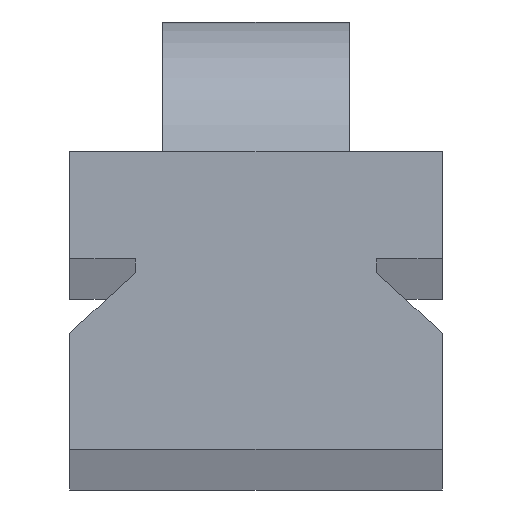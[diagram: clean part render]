
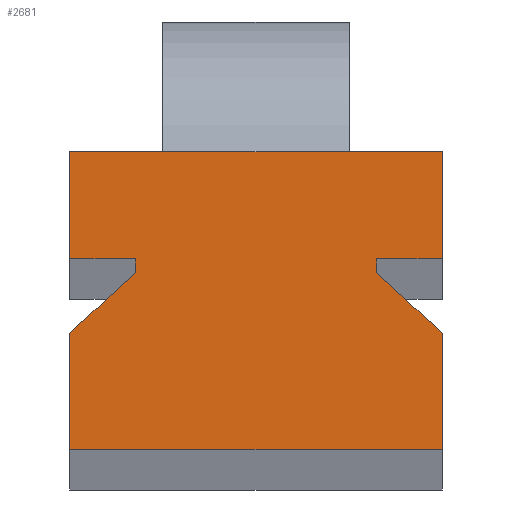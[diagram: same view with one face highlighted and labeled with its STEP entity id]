
A CAD part, top view. The second image highlights one B-rep face of the part: STEP entity #2681.
In plain terms, the highlighted planar face has unit normal (0, 0, 1).
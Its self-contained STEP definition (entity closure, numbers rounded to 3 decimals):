
#43 = CARTESIAN_POINT ( 'NONE',  ( 20., 0., 50. ) ) ;
#131 = VERTEX_POINT ( 'NONE', #3846 ) ;
#171 = EDGE_LOOP ( 'NONE', ( #5297, #5217, #3249, #1581, #4261, #365, #4163, #2507, #2164, #943, #1384, #4360 ) ) ;
#193 = CARTESIAN_POINT ( 'NONE',  ( 20., 20.5, 50. ) ) ;
#204 = DIRECTION ( 'NONE',  ( 0., -1., 0. ) ) ;
#254 = VERTEX_POINT ( 'NONE', #3210 ) ;
#300 = DIRECTION ( 'NONE',  ( -0.733, -0.68, 0. ) ) ;
#365 = ORIENTED_EDGE ( 'NONE', *, *, #3526, .T. ) ;
#384 = EDGE_CURVE ( 'NONE', #4101, #1215, #4078, .T. ) ;
#393 = FACE_OUTER_BOUND ( 'NONE', #171, .T. ) ;
#401 = DIRECTION ( 'NONE',  ( -1., 0., 0. ) ) ;
#515 = VERTEX_POINT ( 'NONE', #193 ) ;
#577 = DIRECTION ( 'NONE',  ( 1., 0., 0. ) ) ;
#612 = CARTESIAN_POINT ( 'NONE',  ( -20., 0., 50. ) ) ;
#635 = DIRECTION ( 'NONE',  ( -0.733, 0.68, 0. ) ) ;
#640 = DIRECTION ( 'NONE',  ( 0., 1., 0. ) ) ;
#793 = CARTESIAN_POINT ( 'NONE',  ( 0., 0., 50. ) ) ;
#824 = VERTEX_POINT ( 'NONE', #1285 ) ;
#943 = ORIENTED_EDGE ( 'NONE', *, *, #3643, .T. ) ;
#1093 = LINE ( 'NONE', #4709, #4825 ) ;
#1166 = VERTEX_POINT ( 'NONE', #1202 ) ;
#1202 = CARTESIAN_POINT ( 'NONE',  ( -20., 12.5, 50. ) ) ;
#1215 = VERTEX_POINT ( 'NONE', #43 ) ;
#1269 = DIRECTION ( 'NONE',  ( 1., 0., 0. ) ) ;
#1285 = CARTESIAN_POINT ( 'NONE',  ( -13., 20.5, 50. ) ) ;
#1315 = LINE ( 'NONE', #3340, #3208 ) ;
#1358 = EDGE_CURVE ( 'NONE', #254, #4519, #5139, .T. ) ;
#1384 = ORIENTED_EDGE ( 'NONE', *, *, #2483, .T. ) ;
#1513 = DIRECTION ( 'NONE',  ( 1., 0., 0. ) ) ;
#1522 = LINE ( 'NONE', #612, #1684 ) ;
#1549 = CARTESIAN_POINT ( 'NONE',  ( 20., 32., 50. ) ) ;
#1570 = DIRECTION ( 'NONE',  ( -1., 0., 0. ) ) ;
#1581 = ORIENTED_EDGE ( 'NONE', *, *, #4746, .T. ) ;
#1684 = VECTOR ( 'NONE', #4770, 1000. ) ;
#1778 = LINE ( 'NONE', #4302, #1933 ) ;
#1860 = VECTOR ( 'NONE', #300, 1000. ) ;
#1933 = VECTOR ( 'NONE', #577, 1000. ) ;
#1959 = CARTESIAN_POINT ( 'NONE',  ( -20., 12.5, 50. ) ) ;
#1975 = PLANE ( 'NONE',  #4265 ) ;
#2081 = EDGE_CURVE ( 'NONE', #4142, #1166, #3530, .T. ) ;
#2157 = CARTESIAN_POINT ( 'NONE',  ( -20., 32., 50. ) ) ;
#2164 = ORIENTED_EDGE ( 'NONE', *, *, #4710, .T. ) ;
#2328 = EDGE_CURVE ( 'NONE', #4428, #3449, #4067, .T. ) ;
#2353 = LINE ( 'NONE', #5184, #4900 ) ;
#2475 = CARTESIAN_POINT ( 'NONE',  ( -13., 19., 50. ) ) ;
#2483 = EDGE_CURVE ( 'NONE', #824, #4142, #5169, .T. ) ;
#2507 = ORIENTED_EDGE ( 'NONE', *, *, #2328, .T. ) ;
#2540 = VECTOR ( 'NONE', #640, 1000. ) ;
#2553 = VECTOR ( 'NONE', #401, 1000. ) ;
#2582 = EDGE_CURVE ( 'NONE', #1166, #4101, #1522, .T. ) ;
#2681 = ADVANCED_FACE ( 'NONE', ( #393 ), #1975, .F. ) ;
#2909 = DIRECTION ( 'NONE',  ( 0., 1., 0. ) ) ;
#2952 = VECTOR ( 'NONE', #204, 1000. ) ;
#3153 = CARTESIAN_POINT ( 'NONE',  ( 13., 20.5, 50. ) ) ;
#3208 = VECTOR ( 'NONE', #2909, 1000. ) ;
#3210 = CARTESIAN_POINT ( 'NONE',  ( 13., 19., 50. ) ) ;
#3249 = ORIENTED_EDGE ( 'NONE', *, *, #4902, .T. ) ;
#3316 = CARTESIAN_POINT ( 'NONE',  ( 20., 0., 50. ) ) ;
#3331 = LINE ( 'NONE', #5002, #4911 ) ;
#3340 = CARTESIAN_POINT ( 'NONE',  ( 20., 32., 50. ) ) ;
#3449 = VERTEX_POINT ( 'NONE', #2157 ) ;
#3526 = EDGE_CURVE ( 'NONE', #4519, #515, #1778, .T. ) ;
#3530 = LINE ( 'NONE', #1959, #1860 ) ;
#3610 = VECTOR ( 'NONE', #1269, 1000. ) ;
#3623 = DIRECTION ( 'NONE',  ( 0., 0., -1. ) ) ;
#3643 = EDGE_CURVE ( 'NONE', #131, #824, #2353, .T. ) ;
#3660 = CARTESIAN_POINT ( 'NONE',  ( -20., 0., 50. ) ) ;
#3846 = CARTESIAN_POINT ( 'NONE',  ( -20., 20.5, 50. ) ) ;
#3878 = CARTESIAN_POINT ( 'NONE',  ( -20., 32., 50. ) ) ;
#4067 = LINE ( 'NONE', #1549, #2553 ) ;
#4075 = VERTEX_POINT ( 'NONE', #4406 ) ;
#4078 = LINE ( 'NONE', #3316, #3610 ) ;
#4101 = VERTEX_POINT ( 'NONE', #3660 ) ;
#4136 = EDGE_CURVE ( 'NONE', #515, #4428, #1315, .T. ) ;
#4142 = VERTEX_POINT ( 'NONE', #2475 ) ;
#4146 = DIRECTION ( 'NONE',  ( 0., 1., 0. ) ) ;
#4163 = ORIENTED_EDGE ( 'NONE', *, *, #4136, .T. ) ;
#4254 = CARTESIAN_POINT ( 'NONE',  ( 13., 20.5, 50. ) ) ;
#4261 = ORIENTED_EDGE ( 'NONE', *, *, #1358, .T. ) ;
#4265 = AXIS2_PLACEMENT_3D ( 'NONE', #793, #3623, #1570 ) ;
#4302 = CARTESIAN_POINT ( 'NONE',  ( 20., 20.5, 50. ) ) ;
#4360 = ORIENTED_EDGE ( 'NONE', *, *, #2081, .T. ) ;
#4368 = CARTESIAN_POINT ( 'NONE',  ( -13., 20.5, 50. ) ) ;
#4406 = CARTESIAN_POINT ( 'NONE',  ( 20., 12.5, 50. ) ) ;
#4428 = VERTEX_POINT ( 'NONE', #4750 ) ;
#4519 = VERTEX_POINT ( 'NONE', #3153 ) ;
#4690 = VECTOR ( 'NONE', #5113, 1000. ) ;
#4709 = CARTESIAN_POINT ( 'NONE',  ( 20., 12.5, 50. ) ) ;
#4710 = EDGE_CURVE ( 'NONE', #3449, #131, #5186, .T. ) ;
#4746 = EDGE_CURVE ( 'NONE', #4075, #254, #1093, .T. ) ;
#4750 = CARTESIAN_POINT ( 'NONE',  ( 20., 32., 50. ) ) ;
#4770 = DIRECTION ( 'NONE',  ( 0., -1., 0. ) ) ;
#4825 = VECTOR ( 'NONE', #635, 1000. ) ;
#4900 = VECTOR ( 'NONE', #1513, 1000. ) ;
#4902 = EDGE_CURVE ( 'NONE', #1215, #4075, #3331, .T. ) ;
#4911 = VECTOR ( 'NONE', #4146, 1000. ) ;
#5002 = CARTESIAN_POINT ( 'NONE',  ( 20., 0., 50. ) ) ;
#5113 = DIRECTION ( 'NONE',  ( 0., -1., 0. ) ) ;
#5139 = LINE ( 'NONE', #4254, #2540 ) ;
#5169 = LINE ( 'NONE', #4368, #4690 ) ;
#5184 = CARTESIAN_POINT ( 'NONE',  ( -20., 20.5, 50. ) ) ;
#5186 = LINE ( 'NONE', #3878, #2952 ) ;
#5217 = ORIENTED_EDGE ( 'NONE', *, *, #384, .T. ) ;
#5297 = ORIENTED_EDGE ( 'NONE', *, *, #2582, .T. ) ;
